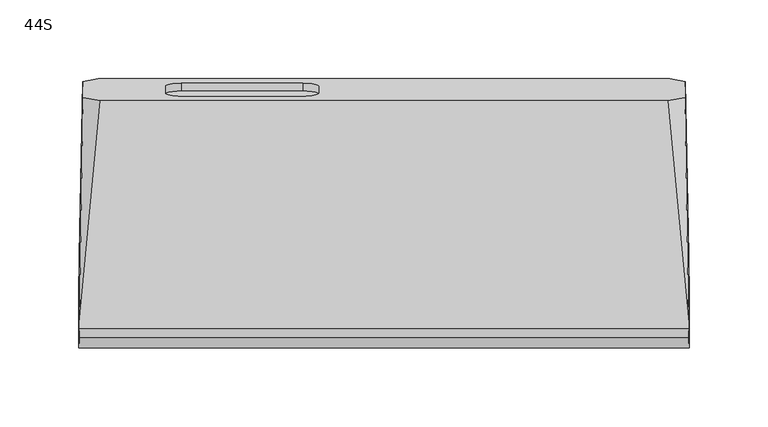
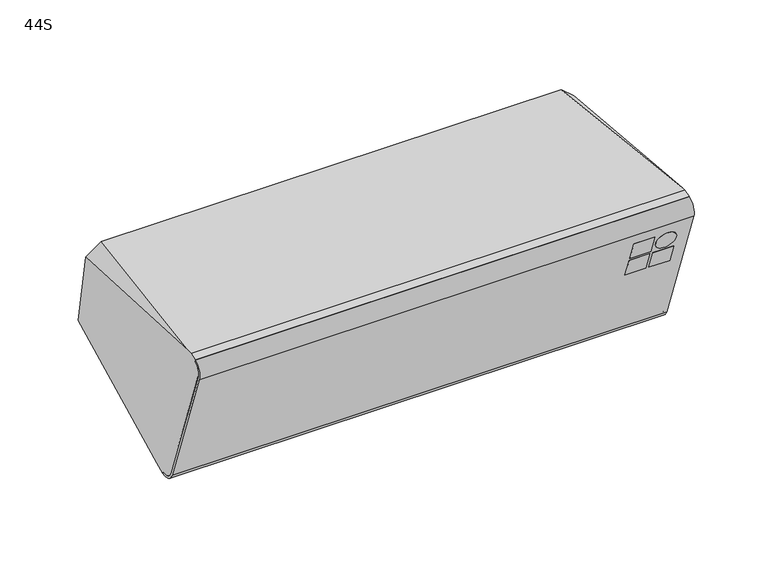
"""IFC4 building model written with IfcOpenShell, lengths in millimetres: proxy geometry, d&b xS-Series 44S Point Source : 44S."""

import ifcopenshell
import ifcopenshell.guid

model = None  # the IFC model being written
_history = None  # IfcOwnerHistory: only IFC2X3 demands one
_inside = {}  # id of a spatial element -> (the spatial element, [elements in it])
_under = {}  # id of a project, library or spatial element -> (it, [spatial elements below it])
_declared = {}  # id of a project -> (the project, [libraries it declares])
_typed = {}  # id of a type object -> (the type object, [elements of that type])
_made_of = {}  # id of a material, layer set ... -> (it, [elements and type objects made of it])


def new_model(schema):
    """Start an empty IFC model of exactly this schema.

    Asked for "IFC4X3", IfcOpenShell would pick the latest addendum, in which some entities
    have other attributes; the version numbers below select the first issue.
    IFC2X3 requires an IfcOwnerHistory on every rooted entity: one is made here for all.
    """
    global model, _history
    if schema == "IFC4X3":
        model = ifcopenshell.file(schema_version=(4, 3, 0, 0))
    else:
        model = ifcopenshell.file(schema=schema)
    _inside.clear()
    _under.clear()
    _declared.clear()
    _typed.clear()
    _made_of.clear()
    _history = None
    if model.schema == "IFC2X3":
        org = make("IfcOrganization", Name="unknown")
        user = make(
            "IfcPersonAndOrganization",
            ThePerson=make("IfcPerson", FamilyName="unknown"),
            TheOrganization=org,
        )
        app = make(
            "IfcApplication",
            ApplicationDeveloper=org,
            Version="unknown",
            ApplicationFullName="unknown",
            ApplicationIdentifier="unknown",
        )
        _history = make(
            "IfcOwnerHistory",
            OwningUser=user,
            OwningApplication=app,
            ChangeAction="ADDED",
            CreationDate=0,
        )
    return model


def make(cls, **values):
    """One entity of the class cls with the attributes given. An attribute that is None is left unset."""
    return model.create_entity(
        cls, **{name: value for name, value in values.items() if value is not None}
    )


def rooted(cls, **values):
    """An entity with a GlobalId (a new one), such as an element, a storey or a relation."""
    return make(cls, GlobalId=ifcopenshell.guid.new(), OwnerHistory=_history, **values)


def si_unit(unit_type, name, prefix=None):
    """IfcSIUnit, for example si_unit("LENGTHUNIT", "METRE", prefix="MILLI")."""
    return make("IfcSIUnit", UnitType=unit_type, Prefix=prefix, Name=name)


def assignment(units):
    """IfcUnitAssignment: the units of a project."""
    return None if units is None else make("IfcUnitAssignment", Units=units)


def point(xyz):
    """IfcCartesianPoint."""
    return None if xyz is None else make("IfcCartesianPoint", Coordinates=xyz)


def direction(xyz):
    """IfcDirection."""
    return None if xyz is None else make("IfcDirection", DirectionRatios=xyz)


def frame(location, z_axis=None, x_axis=None):
    """IfcAxis2Placement3D, a coordinate frame: its origin and axes. An axis left out is left unset."""
    return make(
        "IfcAxis2Placement3D",
        Location=point(location),
        Axis=direction(z_axis),
        RefDirection=direction(x_axis),
    )


def frame_2d(location, x_axis=None):
    """IfcAxis2Placement2D, a coordinate frame in the plane: its origin and x axis."""
    return make(
        "IfcAxis2Placement2D", Location=point(location), RefDirection=direction(x_axis)
    )


def origin():
    """The frame at (0, 0, 0) with its axes left unset."""
    return frame((0.0, 0.0, 0.0))


def place(relative_to, where):
    """IfcLocalPlacement: puts the frame where relative to a parent placement (None: the world)."""
    return make(
        "IfcLocalPlacement", PlacementRelTo=relative_to, RelativePlacement=where
    )


def context(
    kind, dimensions, precision=None, world=None, true_north=None, identifier=None
):
    """IfcGeometricRepresentationContext, for example the 3D "Model" context."""
    return make(
        "IfcGeometricRepresentationContext",
        ContextIdentifier=identifier,
        ContextType=kind,
        CoordinateSpaceDimension=dimensions,
        Precision=precision,
        WorldCoordinateSystem=world,
        TrueNorth=true_north,
    )


def project(units=None, contexts=None):
    """IfcProject with its units and contexts."""
    return rooted(
        "IfcProject",
        Name="project",
        RepresentationContexts=contexts,
        UnitsInContext=assignment(units),
    )


def spatial(cls, under=None, at=None, **own):
    """A site, building, storey or space (cls), placed at a placement, below another one or the project."""
    s = rooted(cls, ObjectPlacement=at, **own)
    if under is not None:
        _under.setdefault(under.id(), (under, []))[1].append(s)
    return s


def polyline(points):
    """IfcPolyline through the points."""
    return make("IfcPolyline", Points=[point(p) for p in points])


def circle_curve(where, radius):
    """IfcCircle in the frame where."""
    return make("IfcCircle", Position=where, Radius=radius)


def ellipse_curve(where, semi_axis1, semi_axis2):
    """IfcEllipse in the frame where."""
    return make(
        "IfcEllipse", Position=where, SemiAxis1=semi_axis1, SemiAxis2=semi_axis2
    )


def trimmed(basis, trim1, trim2, sense, master):
    """IfcTrimmedCurve: the piece of a basis curve between two trims."""
    return make(
        "IfcTrimmedCurve",
        BasisCurve=basis,
        Trim1=trim1,
        Trim2=trim2,
        SenseAgreement=sense,
        MasterRepresentation=master,
    )


def segment(curve, same_sense, transition):
    """IfcCompositeCurveSegment."""
    return make(
        "IfcCompositeCurveSegment",
        Transition=transition,
        SameSense=same_sense,
        ParentCurve=curve,
    )


def composite_curve(segments, self_intersect=None):
    """IfcCompositeCurve: segments joined end to end."""
    return make("IfcCompositeCurve", Segments=segments, SelfIntersect=self_intersect)


def outline(outer, holes=None, kind="AREA"):
    """IfcArbitraryClosedProfileDef: a profile drawn as a closed curve; with holes, ...WithVoids."""
    if holes is None:
        return make("IfcArbitraryClosedProfileDef", ProfileType=kind, OuterCurve=outer)
    return make(
        "IfcArbitraryProfileDefWithVoids",
        ProfileType=kind,
        OuterCurve=outer,
        InnerCurves=holes,
    )


def extrude(swept, where, along, depth):
    """IfcExtrudedAreaSolid: the profile swept, set in the frame where, extruded along a direction by depth."""
    return make(
        "IfcExtrudedAreaSolid",
        SweptArea=swept,
        Position=where,
        ExtrudedDirection=direction(along),
        Depth=depth,
    )


def shape(context_of_items, identifier, shape_type, items):
    """IfcShapeRepresentation: the items that make up one representation, for example the "Body"."""
    return make(
        "IfcShapeRepresentation",
        ContextOfItems=context_of_items,
        RepresentationIdentifier=identifier,
        RepresentationType=shape_type,
        Items=items,
    )


def source(mapping_origin, context_of_items, identifier, shape_type, items):
    """IfcRepresentationMap: a shape defined once, which mapped items show again and again."""
    return make(
        "IfcRepresentationMap",
        MappingOrigin=mapping_origin,
        MappedRepresentation=shape(context_of_items, identifier, shape_type, items),
    )


def transform(
    local_origin,
    x_axis=None,
    y_axis=None,
    z_axis=None,
    scale=None,
    scale2=None,
    scale3=None,
    uniform=True,
):
    """IfcCartesianTransformationOperator3D, or its non-uniform kind. x_axis, y_axis, z_axis: its Axis1, 2, 3."""
    if uniform:
        return make(
            "IfcCartesianTransformationOperator3D",
            Axis1=direction(x_axis),
            Axis2=direction(y_axis),
            LocalOrigin=point(local_origin),
            Scale=scale,
            Axis3=direction(z_axis),
        )
    return make(
        "IfcCartesianTransformationOperator3DnonUniform",
        Axis1=direction(x_axis),
        Axis2=direction(y_axis),
        LocalOrigin=point(local_origin),
        Scale=scale,
        Axis3=direction(z_axis),
        Scale2=scale2,
        Scale3=scale3,
    )


def mapped(mapping_source, mapping_target):
    """IfcMappedItem: shows the shape of a source again, moved by a transform."""
    return make(
        "IfcMappedItem", MappingSource=mapping_source, MappingTarget=mapping_target
    )


def made_of(thing, what):
    """Note that an element or type object is made of a material, layer set ...; save() writes the relation."""
    if what is not None:
        _made_of.setdefault(what.id(), (what, []))[1].append(thing)
    return thing


def element(
    cls,
    number,
    at=None,
    inside=None,
    cuts=None,
    type_object=None,
    material=None,
    context=None,
    identifier="Body",
    shape_type=None,
    held_by="IfcProductDefinitionShape",
    body=None,
    shapes=None,
    **own,
):
    """One element of the class cls, such as IfcWall. Its Tag is "e" and its number.

    at: its placement. inside: the storey or other place that contains it. cuts: it is an
    opening in that element (IfcRelVoidsElement). A single representation is given by context,
    identifier, shape_type and body (its items); several are given by shapes. held_by: the class
    of the entity that holds the representations. save() writes the other relations.
    """
    e = rooted(cls, Tag="e%d" % number, ObjectPlacement=at, **own)
    if body is not None:
        shapes = [shape(context, identifier, shape_type, body)]
    if shapes is not None:
        e.Representation = make(held_by, Representations=shapes)
    if inside is not None:
        _inside.setdefault(inside.id(), (inside, []))[1].append(e)
    if cuts is not None:
        rooted(
            "IfcRelVoidsElement", RelatingBuildingElement=cuts, RelatedOpeningElement=e
        )
    if type_object is not None:
        _typed.setdefault(type_object.id(), (type_object, []))[1].append(e)
    return made_of(e, material)


def aggregate(whole, parts):
    """IfcRelAggregates: a whole, such as a stair, and the parts it consists of."""
    return rooted("IfcRelAggregates", RelatingObject=whole, RelatedObjects=parts)


def save(model, path):
    """Write the relations noted so far, then the file.

    IfcRelAggregates (storeys below a building ...), IfcRelContainedInSpatialStructure (elements
    in a storey), IfcRelDefinesByType, IfcRelAssociatesMaterial and IfcRelDeclares: one each for
    every whole, place, type object, material and project.
    """
    for whole, parts in _under.values():
        aggregate(whole, parts)
    for where, things in _inside.values():
        rooted(
            "IfcRelContainedInSpatialStructure",
            RelatedElements=things,
            RelatingStructure=where,
        )
    for kind, things in _typed.values():
        rooted("IfcRelDefinesByType", RelatedObjects=things, RelatingType=kind)
    for what, things in _made_of.values():
        rooted("IfcRelAssociatesMaterial", RelatedObjects=things, RelatingMaterial=what)
    for by, libraries in _declared.values():
        rooted("IfcRelDeclares", RelatingContext=by, RelatedDefinitions=libraries)
    model.write(path)


def plane_surface(at):
    """IfcPlane: the flat surface through the origin of the frame at, square to its z axis."""
    return make("IfcPlane", Position=at)


def cylinder_surface(at, radius):
    """IfcCylindricalSurface: all points at the distance radius from the z axis of the frame at."""
    return make("IfcCylindricalSurface", Position=at, Radius=radius)


def revolved_surface(curve, axis_point, axis_direction):
    """IfcSurfaceOfRevolution: the curve turned about the line through axis_point along axis_direction."""
    return make(
        "IfcSurfaceOfRevolution",
        SweptCurve=make("IfcArbitraryOpenProfileDef", ProfileType="CURVE", Curve=curve),
        AxisPosition=make("IfcAxis1Placement", Location=point(axis_point), Axis=direction(axis_direction)),
    )


def advanced_brep(points, edges, surfaces, faces):
    """IfcAdvancedBrep: a solid bounded by faces that lie on surfaces and meet in shared edges.

    An edge is (start, end): straight between two places in points (the first is 0);
    or (start, end, curve); or (start, end, curve, False) where it runs against its curve.
    A face is (place in surfaces, loops), or (place, loops, False) where it looks against
    its surface's normal. A loop lists edges by number (the first is 1), with a minus sign
    where the edge is run from its end to its start. The first loop is the outer one.
    """
    corners = [point(p) for p in points]
    vertices = [make("IfcVertexPoint", VertexGeometry=c) for c in corners]
    made = []
    for start, end, *more in edges:
        made.append(
            make(
                "IfcEdgeCurve",
                EdgeStart=vertices[start],
                EdgeEnd=vertices[end],
                EdgeGeometry=more[0] if more else make("IfcPolyline", Points=[corners[start], corners[end]]),
                SameSense=more[1] if len(more) > 1 else True,
            )
        )
    hull = []
    for where, loops, *sense in faces:
        bounds = []
        for j, loop in enumerate(loops):
            ring = [make("IfcOrientedEdge", EdgeElement=made[abs(k) - 1], Orientation=k > 0) for k in loop]
            bounds.append(
                make(
                    "IfcFaceOuterBound" if j == 0 else "IfcFaceBound",
                    Bound=make("IfcEdgeLoop", EdgeList=ring),
                    Orientation=True,
                )
            )
        hull.append(make("IfcAdvancedFace", Bounds=bounds, FaceSurface=surfaces[where], SameSense=sense[0] if sense else True))
    return make("IfcAdvancedBrep", Outer=make("IfcClosedShell", CfsFaces=hull))


def proxy_44s_1c6b800a(model_context):
    return source(origin(), model_context, "Body", "SolidModel", [
        advanced_brep(
        [(-193.2924342, -40.1304238, -82.7136572), (-193.2924342, -40.7995779, -80.8751713), (-193.4294708, -51.0085421, -76.1146532), (-193.4294708, -87.9735419, 25.4458491), (-193.2918337, -83.1921621, 35.6995512), (-193.2918337, -83.8762023, 37.5789364), (-193.1898069, -78.3036462, 39.607181), (-193.132384, -74.7519113, 39.6074739), (-190.8800877, 68.2424569, 29.4951651), (-191.0574064, 78.5489013, -28.955586), (-193.132384, -31.3887128, -79.5319346), (193.2924342, -40.7995779, -80.8751713), (193.2924342, -40.1304238, -82.7136572), (193.132384, -31.3887128, -79.5319346), (191.0574064, 78.5489013, -28.955586), (190.8800877, 68.2424569, 29.4951651), (193.132384, -74.7519113, 39.6074739), (193.1898069, -78.3036462, 39.607181), (193.2918337, -83.8762023, 37.5789364), (193.2918337, -83.1921621, 35.6995512), (193.4294708, -87.9735419, 25.4458491), (193.4294708, -51.0085421, -76.1146532), (-181.3061997, 80.2990071, -38.880929), (181.3061997, 80.2990071, -38.880929), (179.9289467, 66.4573306, 39.6191191), (-179.9289467, 66.4573306, 39.6191191), (-138.5, 71.1207426, 13.1715959), (-138.5, 75.6355952, -12.4334057), (-128.5, 77.372077, -22.2814833), (-51.5, 77.372077, -22.2814833), (-41.5, 75.6355952, -12.4334057), (-41.5, 71.1207426, 13.1715959), (-51.5, 69.3842608, 23.0196734), (-128.5, 69.3842608, 23.0196734), (-138.5, 66.1967038, 12.303355), (-128.5, 64.460222, 22.1514325), (-51.5, 64.460222, 22.1514325), (-41.5, 66.1967038, 12.303355), (-41.5, 70.7115564, -13.3016466), (-51.5, 72.4480382, -23.1497241), (-128.5, 72.4480382, -23.1497241), (-138.5, 70.7115564, -13.3016466)],
        [
            (0, 1),
            (1, 2, ellipse_curve(frame((-193.2924342, -43.5238009, -73.3904302), z_axis=(-0.999852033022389, 0.016164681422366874, 0.005883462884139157), x_axis=(-0.017202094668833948, -0.9395535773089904, -0.3419695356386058)), 7.9662739, 7.9650952)),
            (2, 3),
            (3, 4, ellipse_curve(frame((-193.2918337, -80.4560009, 28.1820102), z_axis=(-0.999852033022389, 0.016164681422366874, 0.005883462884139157), x_axis=(-0.017202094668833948, -0.9395535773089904, -0.3419695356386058)), 8.0011839, 8.0)),
            (4, 5),
            (5, 6),
            (6, 7),
            (7, 8),
            (8, 9),
            (9, 10),
            (10, 0),
            (11, 12),
            (12, 13),
            (13, 14),
            (14, 15),
            (15, 16),
            (16, 17),
            (17, 18),
            (18, 19),
            (19, 20, ellipse_curve(frame((193.2918337, -80.4560009, 28.1820102), z_axis=(0.9998520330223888, 0.01616468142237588, 0.005883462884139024), x_axis=(-0.017202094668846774, 0.9395535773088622, 0.3419695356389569)), 8.0011839, 8.0)),
            (20, 21),
            (21, 11, ellipse_curve(frame((193.2924342, -43.5238009, -73.3904302), z_axis=(0.9998520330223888, 0.01616468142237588, 0.005883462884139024), x_axis=(-0.017202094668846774, 0.9395535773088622, 0.3419695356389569)), 7.9662739, 7.9650952)),
            (0, 12),
            (11, 1),
            (21, 2),
            (20, 3),
            (19, 4),
            (18, 5),
            (17, 6),
            (10, 22),
            (22, 23),
            (23, 13),
            (16, 24),
            (24, 25),
            (25, 7),
            (9, 22),
            (23, 14),
            (15, 24),
            (25, 8),
            (26, 27),
            (27, 28, circle_curve(frame((-128.5, 75.6355952, -12.4334057), z_axis=(0.0, -0.9848077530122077, -0.17364817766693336), x_axis=(0.0, -0.17364817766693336, 0.9848077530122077)), 10.0)),
            (28, 29),
            (29, 30, circle_curve(frame((-51.5, 75.6355952, -12.4334057), z_axis=(0.0, -0.9848077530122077, -0.17364817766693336), x_axis=(0.0, -0.17364817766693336, 0.9848077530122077)), 10.0)),
            (30, 31),
            (31, 32, circle_curve(frame((-51.5, 71.1207426, 13.1715959), z_axis=(0.0, -0.9848077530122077, -0.17364817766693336), x_axis=(0.0, -0.17364817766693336, 0.9848077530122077)), 10.0)),
            (32, 33),
            (33, 26, circle_curve(frame((-128.5, 71.1207426, 13.1715959), z_axis=(0.0, -0.9848077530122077, -0.17364817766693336), x_axis=(0.0, -0.17364817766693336, 0.9848077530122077)), 10.0)),
            (34, 35, circle_curve(frame((-128.5, 66.1967038, 12.303355), z_axis=(0.0, 0.9848077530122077, 0.17364817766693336), x_axis=(0.0, -0.17364817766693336, 0.9848077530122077)), 10.0)),
            (35, 36),
            (36, 37, circle_curve(frame((-51.5, 66.1967038, 12.303355), z_axis=(0.0, 0.9848077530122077, 0.17364817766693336), x_axis=(0.0, -0.17364817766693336, 0.9848077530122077)), 10.0)),
            (37, 38),
            (38, 39, circle_curve(frame((-51.5, 70.7115564, -13.3016466), z_axis=(0.0, 0.9848077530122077, 0.17364817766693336), x_axis=(0.0, -0.17364817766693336, 0.9848077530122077)), 10.0)),
            (39, 40),
            (40, 41, circle_curve(frame((-128.5, 70.7115564, -13.3016466), z_axis=(0.0, 0.9848077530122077, 0.17364817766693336), x_axis=(0.0, -0.17364817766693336, 0.9848077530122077)), 10.0)),
            (41, 34),
            (41, 27),
            (26, 34),
            (40, 28),
            (39, 29),
            (38, 30),
            (37, 31),
            (36, 32),
            (35, 33),
        ],
        [
            plane_surface(frame((-193.8309972, -125.6372625, 60.6895534), z_axis=(-0.999852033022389, 0.016164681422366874, 0.005883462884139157), x_axis=(0.0, 0.3420201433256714, -0.9396926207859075))),
            plane_surface(frame((190.7119283, 44.7217815, 122.6951745), z_axis=(0.999852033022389, 0.016164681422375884, 0.005883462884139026), x_axis=(0.0, 0.3420201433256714, -0.9396926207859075))),
            plane_surface(frame((-207.1452552, -40.1304238, -82.7136572), z_axis=(0.0, -0.9396926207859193, -0.34202014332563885), x_axis=(1.0, 0.0, 0.0))),
            cylinder_surface(frame((207.1452552, -43.5238009, -73.3904302), z_axis=(-1.0, 0.0, 0.0), x_axis=(0.0, 0.3420201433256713, -0.9396926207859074)), 7.9650952),
            plane_surface(frame((-207.1452552, -51.0085421, -76.1146532), z_axis=(0.0, -0.9396926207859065, -0.342020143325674), x_axis=(1.0, 0.0, 0.0))),
            cylinder_surface(frame((207.1452552, -80.4560009, 28.1820102), z_axis=(-1.0, 0.0, 0.0), x_axis=(0.0, 0.3420201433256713, -0.9396926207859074)), 8.0),
            plane_surface(frame((-207.1452552, -83.1921621, 35.6995512), z_axis=(0.0, -0.9396926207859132, -0.34202014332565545), x_axis=(1.0, 0.0, 0.0))),
            plane_surface(frame((-207.1452552, -83.8762023, 37.5789364), z_axis=(0.0, -0.3420201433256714, 0.9396926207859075), x_axis=(1.0, 0.0, 0.0))),
            plane_surface(frame((-207.1452552, -34.5250679, -80.6734745), z_axis=(0.0, 0.3420201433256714, -0.9396926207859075), x_axis=(1.0, 0.0, 0.0))),
            plane_surface(frame((0.0, 66.4573306, 39.6191191), z_axis=(0.0, -8.246800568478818e-05, 0.9999999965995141), x_axis=(-1.0, 0.0, 0.0))),
            plane_surface(frame((-186.6967137, 90.9912157, -27.7871762), z_axis=(-0.7053631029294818, 0.3071997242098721, -0.6388201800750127), x_axis=(0.7071067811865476, 0.2418447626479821, -0.6644630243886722))),
            plane_surface(frame((186.6967137, 90.9912157, -27.7871762), z_axis=(0.7053631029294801, 0.3071997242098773, -0.6388201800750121), x_axis=(0.7071067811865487, -0.24184476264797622, 0.6644630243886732))),
            plane_surface(frame((186.6967137, 68.7720433, 33.2594985), z_axis=(0.6719558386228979, 0.06276879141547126, 0.7379264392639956), x_axis=(-0.7071067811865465, -0.24184476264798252, 0.6644630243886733))),
            plane_surface(frame((-186.6967137, 68.7720433, 33.2594985), z_axis=(-0.6719558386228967, 0.06276879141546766, 0.7379264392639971), x_axis=(-0.7071067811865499, 0.2418447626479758, -0.6644630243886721))),
            plane_surface(frame((-250.0, 83.3421534, -56.1394693), z_axis=(0.0, 0.9848077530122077, 0.17364817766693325), x_axis=(1.0, 0.0, 0.0))),
            plane_surface(frame((-138.5, 75.3749683, -39.7491699), z_axis=(0.0, 0.9848077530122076, 0.17364817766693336), x_axis=(0.0, 0.17364817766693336, -0.9848077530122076))),
            plane_surface(frame((-138.5, 66.1967038, 12.303355), z_axis=(1.0000000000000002, 0.0, 0.0), x_axis=(0.0, 0.9848077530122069, 0.17364817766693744))),
            revolved_surface(polyline([(-128.5, 68.97507462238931, -3.4535690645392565), (-128.5, 73.899113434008, -2.585328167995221)]), (-128.5, 75.6355952, -12.4334057), (0.0, -0.9848077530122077, -0.17364817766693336)),
            plane_surface(frame((-128.5, 72.4480382, -23.1497241), z_axis=(0.0, -0.17364817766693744, 0.9848077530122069), x_axis=(0.0, 0.9848077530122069, 0.17364817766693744))),
            revolved_surface(polyline([(-51.5, 68.97507462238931, -3.4535690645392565), (-51.5, 73.899113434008, -2.585328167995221)]), (-51.5, 75.6355952, -12.4334057), (0.0, -0.9848077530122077, -0.17364817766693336)),
            plane_surface(frame((-41.5, 70.7115564, -13.3016466), z_axis=(-1.0000000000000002, 0.0, 0.0), x_axis=(0.0, 0.9848077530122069, 0.17364817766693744))),
            revolved_surface(polyline([(-51.5, 64.46022199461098, 22.151432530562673), (-51.5, 69.38426082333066, 23.019673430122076)]), (-51.5, 71.1207426, 13.1715959), (0.0, -0.9848077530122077, -0.17364817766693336)),
            plane_surface(frame((-51.5, 64.460222, 22.1514325), z_axis=(0.0, 0.17364817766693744, -0.9848077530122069), x_axis=(0.0, 0.9848077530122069, 0.17364817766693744))),
            revolved_surface(polyline([(-128.5, 64.46022199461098, 22.151432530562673), (-128.5, 69.38426082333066, 23.019673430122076)]), (-128.5, 71.1207426, 13.1715959), (0.0, -0.9848077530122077, -0.17364817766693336)),
        ],
        [
            (0, [[1, 2, 3, 4, 5, 6, 7, 8, 9, 10, 11]]),
            (1, [[12, 13, 14, 15, 16, 17, 18, 19, 20, 21, 22]]),
            (2, [[23, -12, 24, -1]]),
            (3, [[-24, -22, 25, -2]]),
            (4, [[-25, -21, 26, -3]]),
            (5, [[-26, -20, 27, -4]]),
            (6, [[-27, -19, 28, -5]]),
            (7, [[-28, -18, 29, -6]]),
            (8, [[-23, -11, 30, 31, 32, -13]]),
            (9, [[-29, -17, 33, 34, 35, -7]]),
            (10, [[-30, -10, 36]]),
            (11, [[-32, 37, -14]]),
            (12, [[-33, -16, 38]]),
            (13, [[-35, 39, -8]]),
            (14, [[-31, -36, -9, -39, -34, -38, -15, -37], [40, 41, 42, 43, 44, 45, 46, 47]]),
            (15, [[48, 49, 50, 51, 52, 53, 54, 55]]),
            (16, [[-55, 56, -40, 57]]),
            (17, [[-54, 58, -41, -56]]),
            (18, [[-53, 59, -42, -58]]),
            (19, [[-52, 60, -43, -59]]),
            (20, [[-51, 61, -44, -60]]),
            (21, [[-50, 62, -45, -61]]),
            (22, [[-49, 63, -46, -62]]),
            (23, [[-48, -57, -47, -63]]),
        ],
    ),
        extrude(outline(polyline([(0.0, -16.3333333), (0.0, 0.0), (5.0, 0.0), (5.0, -16.3333333), (0.0, -16.3333333)])), frame((148.4644806, -80.8791965, 0.0046316), z_axis=(0.0, -0.3420201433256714, 0.9396926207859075), x_axis=(0.0, 0.9396926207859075, 0.3420201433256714)), (0.0, 0.0, 1.0), 16.3333333),
        extrude(outline(polyline([(0.0, -16.3333333), (0.0, 0.0), (5.0, 0.0), (5.0, -16.3333333), (0.0, -16.3333333)])), frame((148.4644806, -74.4948205, -17.5362973), z_axis=(0.0, -0.3420201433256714, 0.9396926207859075), x_axis=(0.0, 0.9396926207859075, 0.3420201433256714)), (0.0, 0.0, 1.0), 16.3333333),
        extrude(outline(polyline([(0.0, -16.3333333), (0.0, 0.0), (5.0, 0.0), (5.0, -16.3333333), (0.0, -16.3333333)])), frame((167.1311473, -74.4948205, -17.5362973), z_axis=(0.0, -0.3420201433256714, 0.9396926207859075), x_axis=(0.0, 0.9396926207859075, 0.3420201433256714)), (0.0, 0.0, 1.0), 16.3333333),
        extrude(outline(composite_curve([segment(trimmed(circle_curve(frame_2d((36.1666666, -8.1666667)), 8.1666667), [point((44.3333333, -8.1666667))], [point((28.0, -8.1666667))], False, "CARTESIAN"), True, "CONTINUOUS"), segment(trimmed(circle_curve(frame_2d((36.1666666, -8.1666667)), 8.1666667), [point((28.0, -8.1666667))], [point((44.3333333, -8.1666667))], False, "CARTESIAN"), True, "CONTINUOUS")], self_intersect=False)), frame((139.1311473, -80.8791965, 0.0046316), z_axis=(0.0, 0.9396926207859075, 0.3420201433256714), x_axis=(1.0, 0.0, 0.0)), (0.0, 0.0, 1.0), 5.0),
        advanced_brep(
        [(-193.4294708, -87.9735419, 25.4458491), (-193.4294708, -51.0085421, -76.1146532), (-193.2924342, -40.7995779, -80.8751713), (-193.2924342, -40.1304238, -82.7136572), (-193.4644806, -52.9475514, -76.7369324), (-193.4644806, -89.8857269, 24.7498706), (-193.2918337, -83.8881405, 37.6117362), (-193.2918337, -83.1921621, 35.6995512), (193.4294708, -51.0085421, -76.1146532), (193.4294708, -87.9735419, 25.4458491), (193.2918337, -83.1921621, 35.6995512), (193.2918337, -83.8881405, 37.6117362), (193.4644806, -89.8857269, 24.7498706), (193.4644806, -52.9475514, -76.7369324), (193.2924342, -40.1304238, -82.7136572), (193.2924342, -40.7995779, -80.8751713)],
        [
            (0, 1),
            (1, 2, ellipse_curve(frame((-193.2924342, -43.5238009, -73.3904302), z_axis=(0.999852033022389, -0.016164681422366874, -0.005883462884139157), x_axis=(0.017202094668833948, 0.9395535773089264, 0.34196953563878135)), 7.9662739, 7.9650952)),
            (2, 3),
            (3, 4, ellipse_curve(frame((-193.2924342, -43.5506252, -73.316731), z_axis=(-0.999852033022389, 0.016164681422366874, 0.005883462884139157), x_axis=(-0.017202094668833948, -0.9395535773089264, -0.34196953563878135)), 10.0014799, 10.0)),
            (4, 5),
            (5, 6, ellipse_curve(frame((-193.2918337, -80.4560009, 28.1820102), z_axis=(-0.999852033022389, 0.016164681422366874, 0.005883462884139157), x_axis=(-0.017202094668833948, -0.9395535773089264, -0.34196953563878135)), 10.0363899, 10.0349048)),
            (6, 7),
            (7, 0, ellipse_curve(frame((-193.2918337, -80.4560009, 28.1820102), z_axis=(0.999852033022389, -0.016164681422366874, -0.005883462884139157), x_axis=(0.017202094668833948, 0.9395535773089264, 0.34196953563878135)), 8.0011839, 8.0)),
            (8, 9),
            (9, 10, ellipse_curve(frame((193.2918337, -80.4560009, 28.1820102), z_axis=(-0.9998520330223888, -0.01616468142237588, -0.005883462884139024), x_axis=(0.017202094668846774, -0.9395535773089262, -0.34196953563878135)), 8.0011839, 8.0)),
            (10, 11),
            (11, 12, ellipse_curve(frame((193.2918337, -80.4560009, 28.1820102), z_axis=(0.9998520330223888, 0.01616468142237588, 0.005883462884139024), x_axis=(-0.017202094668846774, 0.9395535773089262, 0.34196953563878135)), 10.0363899, 10.0349048)),
            (12, 13),
            (13, 14, ellipse_curve(frame((193.2924342, -43.5506252, -73.316731), z_axis=(0.9998520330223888, 0.01616468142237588, 0.005883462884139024), x_axis=(-0.017202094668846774, 0.9395535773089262, 0.34196953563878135)), 10.0014799, 10.0)),
            (14, 15),
            (15, 8, ellipse_curve(frame((193.2924342, -43.5238009, -73.3904302), z_axis=(-0.9998520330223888, -0.01616468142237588, -0.005883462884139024), x_axis=(0.017202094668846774, -0.9395535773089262, -0.34196953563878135)), 7.9662739, 7.9650952)),
            (0, 9),
            (8, 1),
            (15, 2),
            (14, 3),
            (13, 4),
            (12, 5),
            (11, 6),
            (10, 7),
        ],
        [
            plane_surface(frame((-193.8309972, -125.6372625, 60.6895534), z_axis=(-0.999852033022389, 0.016164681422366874, 0.005883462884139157), x_axis=(0.0, 0.3420201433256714, -0.9396926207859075))),
            plane_surface(frame((190.7119283, 44.7217815, 122.6951745), z_axis=(0.999852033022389, 0.016164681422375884, 0.005883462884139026), x_axis=(0.0, 0.3420201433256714, -0.9396926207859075))),
            plane_surface(frame((-202.5, -87.9735419, 25.4458491), z_axis=(0.0, 0.9396926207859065, 0.342020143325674), x_axis=(1.0, 0.0, 0.0))),
            revolved_surface(polyline([(193.4294708, -46.24802390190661, -65.90568901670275), (-193.4294708, -46.24802390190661, -65.90568901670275)]), (202.5, -43.5238009, -73.3904302), (1.0, 0.0, 0.0)),
            plane_surface(frame((-202.5, -40.7995779, -80.8751713), z_axis=(0.0, 0.9396926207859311, 0.3420201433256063), x_axis=(1.0, 0.0, 0.0))),
            cylinder_surface(frame((202.5, -43.5506252, -73.316731), z_axis=(-1.0, 0.0, 0.0), x_axis=(0.0, -0.3420201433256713, 0.9396926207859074)), 10.0),
            plane_surface(frame((-202.5, -52.9475514, -76.7369324), z_axis=(0.0, -0.9396926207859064, -0.34202014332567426), x_axis=(1.0, 0.0, 0.0))),
            cylinder_surface(frame((202.5, -80.4560009, 28.1820102), z_axis=(-1.0, 0.0, 0.0), x_axis=(0.0, -0.3420201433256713, 0.9396926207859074)), 10.0349048),
            plane_surface(frame((-202.5, -83.8881405, 37.6117362), z_axis=(0.0, 0.9396926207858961, 0.3420201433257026), x_axis=(1.0, 0.0, 0.0))),
            revolved_surface(polyline([(193.42947082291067, -83.19216204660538, 35.69955116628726), (-193.42947082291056, -83.19216204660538, 35.69955116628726)]), (202.5, -80.4560009, 28.1820102), (1.0, 0.0, 0.0)),
        ],
        [
            (0, [[1, 2, 3, 4, 5, 6, 7, 8]]),
            (1, [[9, 10, 11, 12, 13, 14, 15, 16]]),
            (2, [[17, -9, 18, -1]]),
            (3, [[-18, -16, 19, -2]]),
            (4, [[-19, -15, 20, -3]]),
            (5, [[-20, -14, 21, -4]]),
            (6, [[-21, -13, 22, -5]]),
            (7, [[-22, -12, 23, -6]]),
            (8, [[-23, -11, 24, -7]]),
            (9, [[-17, -8, -24, -10]]),
        ],
    ),
    ])


if __name__ == "__main__":
    model = new_model("IFC4")
    model_context = context("Model", 3, world=origin())
    ifc_project = project(units=[si_unit("LENGTHUNIT", "METRE", prefix="MILLI")], contexts=[model_context])
    site = spatial("IfcSite", under=ifc_project)
    building = spatial("IfcBuilding", under=site)
    placement = place(None, origin())
    proxy_44s_shape = proxy_44s_1c6b800a(model_context)
    element("IfcBuildingElementProxy", 1, Name="d&b xS-Series 44S Point Source : 44S", ObjectType="d&b xS-Series 44S Point Source : 44S", at=placement, inside=building, context=model_context, shape_type="MappedRepresentation", body=[
        mapped(proxy_44s_shape, transform((0.0, 0.0, 0.0), x_axis=(1.0, 0.0, 0.0), y_axis=(0.0, 1.0, 0.0), z_axis=(0.0, 0.0, 1.0))),
    ])
    save(model, "model.ifc")
